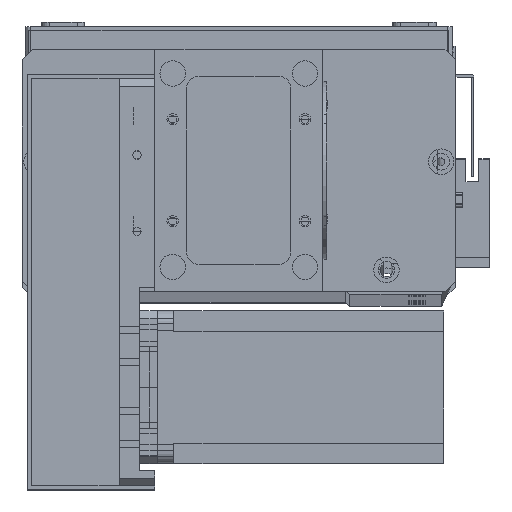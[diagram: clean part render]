
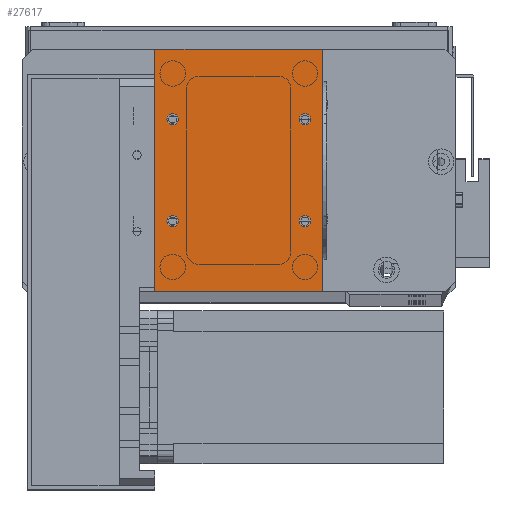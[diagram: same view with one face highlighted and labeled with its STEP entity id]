
A CAD part, top view. The second image highlights one B-rep face of the part: STEP entity #27617.
In plain terms, the highlighted planar face has unit normal (0, 0, 1).
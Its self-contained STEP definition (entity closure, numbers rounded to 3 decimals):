
#255 = VERTEX_POINT ( 'NONE', #16544 ) ;
#390 = FACE_BOUND ( 'NONE', #5181, .T. ) ;
#558 = CARTESIAN_POINT ( 'NONE',  ( 61.25, 67.5, 2. ) ) ;
#617 = CARTESIAN_POINT ( 'NONE',  ( 7., 27.5, 2. ) ) ;
#773 = CARTESIAN_POINT ( 'NONE',  ( 66., 95., 2. ) ) ;
#827 = EDGE_CURVE ( 'NONE', #1005, #2786, #12064, .T. ) ;
#853 = CIRCLE ( 'NONE', #7498, 2.25 ) ;
#945 = DIRECTION ( 'NONE',  ( 0., 0., 1. ) ) ;
#1005 = VERTEX_POINT ( 'NONE', #8664 ) ;
#1023 = CARTESIAN_POINT ( 'NONE',  ( 7., 67.5, 2. ) ) ;
#1050 = DIRECTION ( 'NONE',  ( 1., 0., 0. ) ) ;
#1929 = VECTOR ( 'NONE', #32470, 1000. ) ;
#2336 = DIRECTION ( 'NONE',  ( -1., 0., 0. ) ) ;
#2611 = EDGE_LOOP ( 'NONE', ( #11922, #22403 ) ) ;
#2786 = VERTEX_POINT ( 'NONE', #773 ) ;
#3394 = DIRECTION ( 'NONE',  ( 1., 0., 0. ) ) ;
#3606 = CIRCLE ( 'NONE', #24892, 2.25 ) ;
#3711 = CARTESIAN_POINT ( 'NONE',  ( 0., 0., 2. ) ) ;
#4143 = DIRECTION ( 'NONE',  ( 0., -1., 0. ) ) ;
#4625 = EDGE_CURVE ( 'NONE', #4965, #31598, #29830, .T. ) ;
#4786 = EDGE_CURVE ( 'NONE', #2786, #31805, #14730, .T. ) ;
#4952 = DIRECTION ( 'NONE',  ( 1., 0., 0. ) ) ;
#4965 = VERTEX_POINT ( 'NONE', #24882 ) ;
#4983 = CARTESIAN_POINT ( 'NONE',  ( 0., 0., 2. ) ) ;
#5181 = EDGE_LOOP ( 'NONE', ( #14288, #13186 ) ) ;
#5745 = CARTESIAN_POINT ( 'NONE',  ( 7., 67.5, 2. ) ) ;
#5903 = CIRCLE ( 'NONE', #9904, 2.25 ) ;
#6115 = EDGE_CURVE ( 'NONE', #27031, #31638, #23405, .T. ) ;
#6829 = FACE_BOUND ( 'NONE', #22415, .T. ) ;
#7251 = DIRECTION ( 'NONE',  ( 1., 0., 0. ) ) ;
#7261 = EDGE_CURVE ( 'NONE', #31598, #4965, #3606, .T. ) ;
#7264 = CARTESIAN_POINT ( 'NONE',  ( 0., 95., 2. ) ) ;
#7334 = DIRECTION ( 'NONE',  ( 0., 0., 1. ) ) ;
#7358 = CARTESIAN_POINT ( 'NONE',  ( 59., 67.5, 2. ) ) ;
#7498 = AXIS2_PLACEMENT_3D ( 'NONE', #18615, #26238, #4952 ) ;
#7652 = FACE_BOUND ( 'NONE', #2611, .T. ) ;
#7936 = CARTESIAN_POINT ( 'NONE',  ( 59., 27.5, 2. ) ) ;
#8433 = DIRECTION ( 'NONE',  ( 1., 0., 0. ) ) ;
#8664 = CARTESIAN_POINT ( 'NONE',  ( 66., 0., 2. ) ) ;
#8704 = VERTEX_POINT ( 'NONE', #12227 ) ;
#9645 = VERTEX_POINT ( 'NONE', #11688 ) ;
#9673 = DIRECTION ( 'NONE',  ( 1., 0., 0. ) ) ;
#9743 = EDGE_CURVE ( 'NONE', #255, #8704, #853, .T. ) ;
#9904 = AXIS2_PLACEMENT_3D ( 'NONE', #7936, #26489, #10666 ) ;
#10263 = AXIS2_PLACEMENT_3D ( 'NONE', #13626, #26724, #16316 ) ;
#10437 = ORIENTED_EDGE ( 'NONE', *, *, #827, .T. ) ;
#10666 = DIRECTION ( 'NONE',  ( 1., 0., 0. ) ) ;
#10739 = LINE ( 'NONE', #17596, #29999 ) ;
#10828 = DIRECTION ( 'NONE',  ( 0., 0., 1. ) ) ;
#10861 = EDGE_CURVE ( 'NONE', #25480, #9645, #20645, .T. ) ;
#10899 = PLANE ( 'NONE',  #10263 ) ;
#11037 = AXIS2_PLACEMENT_3D ( 'NONE', #1023, #945, #1050 ) ;
#11525 = EDGE_LOOP ( 'NONE', ( #27709, #21960, #10437, #31457 ) ) ;
#11545 = CARTESIAN_POINT ( 'NONE',  ( 7., 27.5, 2. ) ) ;
#11618 = CARTESIAN_POINT ( 'NONE',  ( 4.75, 67.5, 2. ) ) ;
#11688 = CARTESIAN_POINT ( 'NONE',  ( 4.75, 27.5, 2. ) ) ;
#11922 = ORIENTED_EDGE ( 'NONE', *, *, #7261, .F. ) ;
#12064 = LINE ( 'NONE', #18696, #18350 ) ;
#12227 = CARTESIAN_POINT ( 'NONE',  ( 56.75, 27.5, 2. ) ) ;
#13186 = ORIENTED_EDGE ( 'NONE', *, *, #14132, .F. ) ;
#13626 = CARTESIAN_POINT ( 'NONE',  ( 0., 0., 2. ) ) ;
#13694 = AXIS2_PLACEMENT_3D ( 'NONE', #5745, #24456, #8433 ) ;
#14132 = EDGE_CURVE ( 'NONE', #8704, #255, #5903, .T. ) ;
#14288 = ORIENTED_EDGE ( 'NONE', *, *, #9743, .F. ) ;
#14730 = LINE ( 'NONE', #7264, #21846 ) ;
#15077 = ORIENTED_EDGE ( 'NONE', *, *, #6115, .F. ) ;
#15448 = DIRECTION ( 'NONE',  ( 0., 0., 1. ) ) ;
#15739 = CARTESIAN_POINT ( 'NONE',  ( 59., 67.5, 2. ) ) ;
#16316 = DIRECTION ( 'NONE',  ( -1., 0., 0. ) ) ;
#16544 = CARTESIAN_POINT ( 'NONE',  ( 61.25, 27.5, 2. ) ) ;
#16600 = VERTEX_POINT ( 'NONE', #4983 ) ;
#17596 = CARTESIAN_POINT ( 'NONE',  ( 0., 0., 2. ) ) ;
#17884 = DIRECTION ( 'NONE',  ( 0., 1., 0. ) ) ;
#18350 = VECTOR ( 'NONE', #17884, 1000. ) ;
#18615 = CARTESIAN_POINT ( 'NONE',  ( 59., 27.5, 2. ) ) ;
#18671 = AXIS2_PLACEMENT_3D ( 'NONE', #15739, #15448, #31835 ) ;
#18696 = CARTESIAN_POINT ( 'NONE',  ( 66., 0., 2. ) ) ;
#19533 = DIRECTION ( 'NONE',  ( 0., 0., 1. ) ) ;
#20182 = EDGE_CURVE ( 'NONE', #9645, #25480, #31760, .T. ) ;
#20435 = CARTESIAN_POINT ( 'NONE',  ( 9.25, 67.5, 2. ) ) ;
#20645 = CIRCLE ( 'NONE', #21037, 2.25 ) ;
#21037 = AXIS2_PLACEMENT_3D ( 'NONE', #11545, #10828, #9673 ) ;
#21114 = FACE_BOUND ( 'NONE', #34092, .T. ) ;
#21846 = VECTOR ( 'NONE', #2336, 1000. ) ;
#21960 = ORIENTED_EDGE ( 'NONE', *, *, #31084, .T. ) ;
#22403 = ORIENTED_EDGE ( 'NONE', *, *, #4625, .F. ) ;
#22415 = EDGE_LOOP ( 'NONE', ( #31171, #32799 ) ) ;
#23221 = ORIENTED_EDGE ( 'NONE', *, *, #32791, .F. ) ;
#23405 = CIRCLE ( 'NONE', #11037, 2.25 ) ;
#24192 = LINE ( 'NONE', #3711, #1929 ) ;
#24456 = DIRECTION ( 'NONE',  ( 0., 0., 1. ) ) ;
#24624 = AXIS2_PLACEMENT_3D ( 'NONE', #617, #19533, #3394 ) ;
#24882 = CARTESIAN_POINT ( 'NONE',  ( 56.75, 67.5, 2. ) ) ;
#24892 = AXIS2_PLACEMENT_3D ( 'NONE', #7358, #7334, #7251 ) ;
#25480 = VERTEX_POINT ( 'NONE', #28922 ) ;
#25863 = EDGE_CURVE ( 'NONE', #31805, #16600, #10739, .T. ) ;
#26079 = CIRCLE ( 'NONE', #13694, 2.25 ) ;
#26238 = DIRECTION ( 'NONE',  ( 0., 0., 1. ) ) ;
#26489 = DIRECTION ( 'NONE',  ( 0., 0., 1. ) ) ;
#26724 = DIRECTION ( 'NONE',  ( 0., 0., -1. ) ) ;
#27031 = VERTEX_POINT ( 'NONE', #20435 ) ;
#27120 = FACE_OUTER_BOUND ( 'NONE', #11525, .T. ) ;
#27617 = ADVANCED_FACE ( 'NONE', ( #21114, #7652, #390, #6829, #27120 ), #10899, .F. ) ;
#27709 = ORIENTED_EDGE ( 'NONE', *, *, #25863, .T. ) ;
#28063 = CARTESIAN_POINT ( 'NONE',  ( 0., 95., 2. ) ) ;
#28922 = CARTESIAN_POINT ( 'NONE',  ( 9.25, 27.5, 2. ) ) ;
#29830 = CIRCLE ( 'NONE', #18671, 2.25 ) ;
#29999 = VECTOR ( 'NONE', #4143, 1000. ) ;
#31084 = EDGE_CURVE ( 'NONE', #16600, #1005, #24192, .T. ) ;
#31171 = ORIENTED_EDGE ( 'NONE', *, *, #10861, .F. ) ;
#31457 = ORIENTED_EDGE ( 'NONE', *, *, #4786, .T. ) ;
#31598 = VERTEX_POINT ( 'NONE', #558 ) ;
#31638 = VERTEX_POINT ( 'NONE', #11618 ) ;
#31760 = CIRCLE ( 'NONE', #24624, 2.25 ) ;
#31805 = VERTEX_POINT ( 'NONE', #28063 ) ;
#31835 = DIRECTION ( 'NONE',  ( 1., 0., 0. ) ) ;
#32470 = DIRECTION ( 'NONE',  ( 1., 0., 0. ) ) ;
#32791 = EDGE_CURVE ( 'NONE', #31638, #27031, #26079, .T. ) ;
#32799 = ORIENTED_EDGE ( 'NONE', *, *, #20182, .F. ) ;
#34092 = EDGE_LOOP ( 'NONE', ( #15077, #23221 ) ) ;
